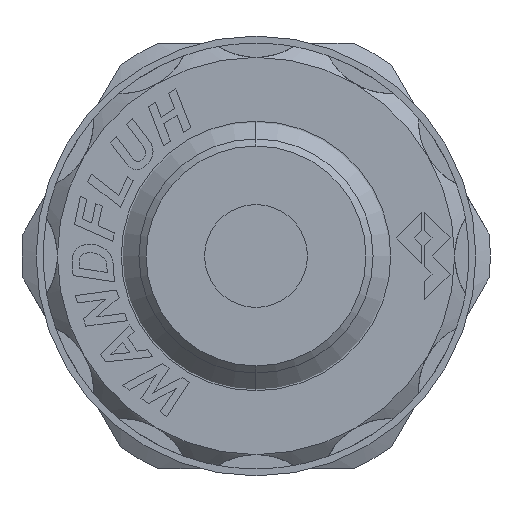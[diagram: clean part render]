
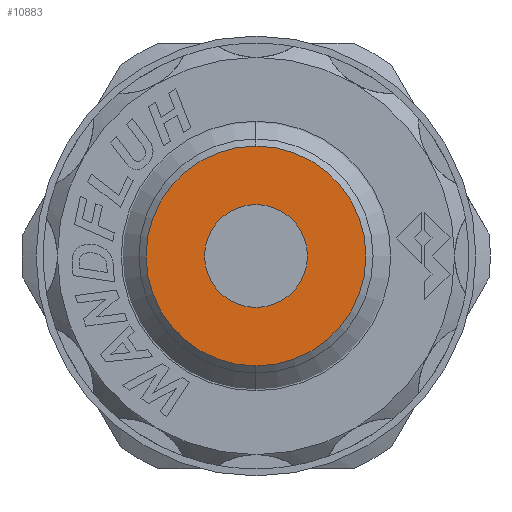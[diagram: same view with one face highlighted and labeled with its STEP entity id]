
A CAD part, left-side view. The second image highlights one B-rep face of the part: STEP entity #10883.
In plain terms, the highlighted planar face has unit normal (-1, 0, 0).
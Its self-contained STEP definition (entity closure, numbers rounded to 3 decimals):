
#114 = CIRCLE ( 'NONE', #8892, 7.75 ) ;
#979 = CIRCLE ( 'NONE', #8956, 7.75 ) ;
#1015 = CIRCLE ( 'NONE', #8953, 3.625 ) ;
#1543 = CIRCLE ( 'NONE', #8850, 3.625 ) ;
#4003 = DIRECTION ( 'NONE',  ( 0., 0., -1. ) ) ;
#4004 = DIRECTION ( 'NONE',  ( -1., 0., 0. ) ) ;
#4005 = CARTESIAN_POINT ( 'NONE',  ( -70.9, -3.625, 0. ) ) ;
#4014 = PLANE ( 'NONE',  #13736 ) ;
#7380 = FACE_BOUND ( 'NONE', #20266, .T. ) ;
#7389 = FACE_OUTER_BOUND ( 'NONE', #20208, .T. ) ;
#7770 = CARTESIAN_POINT ( 'NONE',  ( -70.9, 0., 0. ) ) ;
#7771 = DIRECTION ( 'NONE',  ( -1., 0., 0. ) ) ;
#7772 = DIRECTION ( 'NONE',  ( 0., 0., -1. ) ) ;
#7788 = CARTESIAN_POINT ( 'NONE',  ( -70.9, 0., 0. ) ) ;
#7789 = DIRECTION ( 'NONE',  ( -1., 0., 0. ) ) ;
#7790 = DIRECTION ( 'NONE',  ( 0., 0., -1. ) ) ;
#8850 = AXIS2_PLACEMENT_3D ( 'NONE', #7788, #7789, #7790 ) ;
#8892 = AXIS2_PLACEMENT_3D ( 'NONE', #7770, #7771, #7772 ) ;
#8953 = AXIS2_PLACEMENT_3D ( 'NONE', #18388, #18389, #18390 ) ;
#8956 = AXIS2_PLACEMENT_3D ( 'NONE', #18385, #18386, #18387 ) ;
#9414 = ORIENTED_EDGE ( 'NONE', *, *, #16386, .F. ) ;
#9512 = VERTEX_POINT ( 'NONE', #11629 ) ;
#9580 = ORIENTED_EDGE ( 'NONE', *, *, #16385, .T. ) ;
#9822 = VERTEX_POINT ( 'NONE', #11320 ) ;
#9843 = ORIENTED_EDGE ( 'NONE', *, *, #16563, .F. ) ;
#9857 = VERTEX_POINT ( 'NONE', #12152 ) ;
#9874 = VERTEX_POINT ( 'NONE', #11009 ) ;
#9950 = ORIENTED_EDGE ( 'NONE', *, *, #16558, .T. ) ;
#10883 = ADVANCED_FACE ( 'NONE', ( #7389, #7380 ), #4014, .T. ) ;
#11009 = CARTESIAN_POINT ( 'NONE',  ( -70.9, 0., 7.75 ) ) ;
#11320 = CARTESIAN_POINT ( 'NONE',  ( -70.9, 0., 3.625 ) ) ;
#11629 = CARTESIAN_POINT ( 'NONE',  ( -70.9, 0., -7.75 ) ) ;
#12152 = CARTESIAN_POINT ( 'NONE',  ( -70.9, 0., -3.625 ) ) ;
#13736 = AXIS2_PLACEMENT_3D ( 'NONE', #4005, #4004, #4003 ) ;
#16385 = EDGE_CURVE ( 'NONE', #9874, #9512, #979, .T. ) ;
#16386 = EDGE_CURVE ( 'NONE', #9857, #9822, #1015, .T. ) ;
#16558 = EDGE_CURVE ( 'NONE', #9512, #9874, #114, .T. ) ;
#16563 = EDGE_CURVE ( 'NONE', #9822, #9857, #1543, .T. ) ;
#18385 = CARTESIAN_POINT ( 'NONE',  ( -70.9, 0., 0. ) ) ;
#18386 = DIRECTION ( 'NONE',  ( -1., 0., 0. ) ) ;
#18387 = DIRECTION ( 'NONE',  ( 0., 0., -1. ) ) ;
#18388 = CARTESIAN_POINT ( 'NONE',  ( -70.9, 0., 0. ) ) ;
#18389 = DIRECTION ( 'NONE',  ( -1., 0., 0. ) ) ;
#18390 = DIRECTION ( 'NONE',  ( 0., 0., -1. ) ) ;
#20208 = EDGE_LOOP ( 'NONE', ( #9580, #9950 ) ) ;
#20266 = EDGE_LOOP ( 'NONE', ( #9414, #9843 ) ) ;
